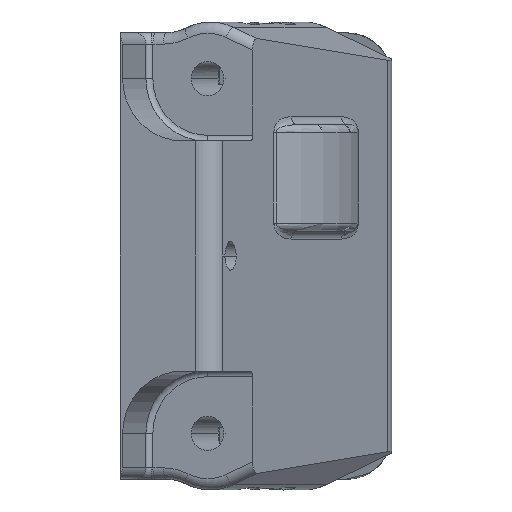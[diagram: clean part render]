
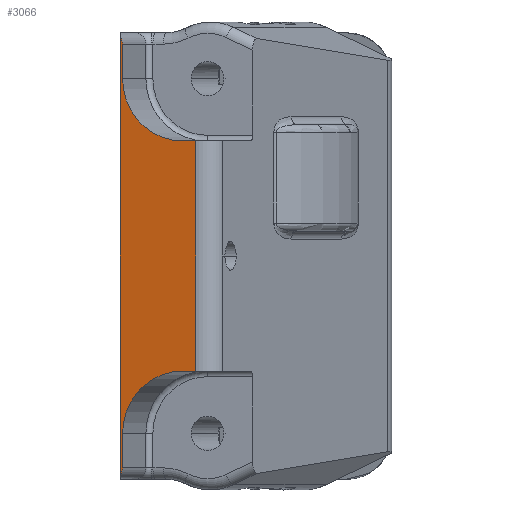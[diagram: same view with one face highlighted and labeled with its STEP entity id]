
A CAD part, left-side view. The second image highlights one B-rep face of the part: STEP entity #3066.
In plain terms, the highlighted planar face has unit normal (-0.966, 0.259, 0).
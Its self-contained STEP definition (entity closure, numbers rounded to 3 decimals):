
#64 = VERTEX_POINT ( 'NONE', #4990 ) ;
#88 = CARTESIAN_POINT ( 'NONE',  ( -26.201, -0.226, 18.7 ) ) ;
#199 = EDGE_LOOP ( 'NONE', ( #6030, #9145, #4291, #7482, #7599, #6589, #609, #6288, #924, #1440 ) ) ;
#238 = CARTESIAN_POINT ( 'NONE',  ( -27.625, -5.539, -10.15 ) ) ;
#278 = LINE ( 'NONE', #1884, #8364 ) ;
#331 = DIRECTION ( 'NONE',  ( 0.966, -0.259, 0. ) ) ;
#449 = EDGE_CURVE ( 'NONE', #5152, #2098, #6606, .T. ) ;
#606 = CARTESIAN_POINT ( 'NONE',  ( -26.201, -0.226, -15.65 ) ) ;
#609 = ORIENTED_EDGE ( 'NONE', *, *, #1657, .T. ) ;
#720 = DIRECTION ( 'NONE',  ( 0., 0., 1. ) ) ;
#758 = DIRECTION ( 'NONE',  ( -0.966, 0.259, 0. ) ) ;
#864 = FACE_OUTER_BOUND ( 'NONE', #199, .T. ) ;
#882 = CIRCLE ( 'NONE', #1748, 1. ) ;
#924 = ORIENTED_EDGE ( 'NONE', *, *, #7845, .T. ) ;
#1090 = VERTEX_POINT ( 'NONE', #2888 ) ;
#1203 = CARTESIAN_POINT ( 'NONE',  ( -26.201, -0.226, 15.65 ) ) ;
#1310 = EDGE_CURVE ( 'NONE', #1090, #1899, #2204, .T. ) ;
#1401 = VERTEX_POINT ( 'NONE', #238 ) ;
#1416 = VECTOR ( 'NONE', #10381, 1000. ) ;
#1440 = ORIENTED_EDGE ( 'NONE', *, *, #3143, .T. ) ;
#1570 = CIRCLE ( 'NONE', #9732, 1. ) ;
#1657 = EDGE_CURVE ( 'NONE', #1401, #5807, #278, .T. ) ;
#1748 = AXIS2_PLACEMENT_3D ( 'NONE', #8794, #758, #5595 ) ;
#1818 = AXIS2_PLACEMENT_3D ( 'NONE', #3082, #3858, #9516 ) ;
#1884 = CARTESIAN_POINT ( 'NONE',  ( -27.625, -5.539, -10.15 ) ) ;
#1899 = VERTEX_POINT ( 'NONE', #6295 ) ;
#1945 = CARTESIAN_POINT ( 'NONE',  ( -27.625, -5.539, 10.15 ) ) ;
#2029 = EDGE_CURVE ( 'NONE', #1090, #2731, #882, .T. ) ;
#2098 = VERTEX_POINT ( 'NONE', #88 ) ;
#2204 = LINE ( 'NONE', #2488, #1416 ) ;
#2488 = CARTESIAN_POINT ( 'NONE',  ( -26.141, 0., -15.65 ) ) ;
#2731 = VERTEX_POINT ( 'NONE', #6410 ) ;
#2787 = VECTOR ( 'NONE', #9797, 1000. ) ;
#2888 = CARTESIAN_POINT ( 'NONE',  ( -26.141, 0., -19.343 ) ) ;
#3066 = ADVANCED_FACE ( 'NONE', ( #864 ), #3281, .T. ) ;
#3082 = CARTESIAN_POINT ( 'NONE',  ( -27.625, -5.539, 15.65 ) ) ;
#3143 = EDGE_CURVE ( 'NONE', #7369, #5152, #6702, .T. ) ;
#3230 = EDGE_CURVE ( 'NONE', #2731, #5810, #8333, .T. ) ;
#3281 = PLANE ( 'NONE',  #5863 ) ;
#3858 = DIRECTION ( 'NONE',  ( 0.966, -0.259, 0. ) ) ;
#4020 = EDGE_CURVE ( 'NONE', #5807, #64, #5218, .T. ) ;
#4113 = CARTESIAN_POINT ( 'NONE',  ( -27.934, -6.693, 10.15 ) ) ;
#4291 = ORIENTED_EDGE ( 'NONE', *, *, #1310, .F. ) ;
#4300 = DIRECTION ( 'NONE',  ( -0.259, -0.966, 0. ) ) ;
#4431 = DIRECTION ( 'NONE',  ( 0.259, 0.966, 0. ) ) ;
#4502 = VECTOR ( 'NONE', #10173, 1000. ) ;
#4567 = CARTESIAN_POINT ( 'NONE',  ( -26.201, -0.226, 15.65 ) ) ;
#4904 = DIRECTION ( 'NONE',  ( -0.966, 0.259, 0. ) ) ;
#4977 = DIRECTION ( 'NONE',  ( -0.966, 0.259, 0. ) ) ;
#4990 = CARTESIAN_POINT ( 'NONE',  ( -27.934, -6.693, 10.15 ) ) ;
#5152 = VERTEX_POINT ( 'NONE', #1203 ) ;
#5215 = CARTESIAN_POINT ( 'NONE',  ( -27.625, -5.539, -15.65 ) ) ;
#5218 = LINE ( 'NONE', #4113, #2787 ) ;
#5491 = AXIS2_PLACEMENT_3D ( 'NONE', #5215, #331, #9964 ) ;
#5595 = DIRECTION ( 'NONE',  ( -0.259, -0.966, 0. ) ) ;
#5790 = DIRECTION ( 'NONE',  ( -0.259, -0.966, 0. ) ) ;
#5807 = VERTEX_POINT ( 'NONE', #10357 ) ;
#5810 = VERTEX_POINT ( 'NONE', #606 ) ;
#5863 = AXIS2_PLACEMENT_3D ( 'NONE', #9725, #4904, #5790 ) ;
#6030 = ORIENTED_EDGE ( 'NONE', *, *, #449, .T. ) ;
#6230 = CARTESIAN_POINT ( 'NONE',  ( -27.625, -5.539, 10.15 ) ) ;
#6288 = ORIENTED_EDGE ( 'NONE', *, *, #4020, .T. ) ;
#6295 = CARTESIAN_POINT ( 'NONE',  ( -26.141, 0., 19.343 ) ) ;
#6379 = LINE ( 'NONE', #1945, #8243 ) ;
#6410 = CARTESIAN_POINT ( 'NONE',  ( -26.201, -0.226, -18.7 ) ) ;
#6589 = ORIENTED_EDGE ( 'NONE', *, *, #8772, .T. ) ;
#6606 = LINE ( 'NONE', #4567, #4502 ) ;
#6702 = CIRCLE ( 'NONE', #1818, 5.5 ) ;
#6944 = VECTOR ( 'NONE', #720, 1000. ) ;
#7030 = EDGE_CURVE ( 'NONE', #2098, #1899, #1570, .T. ) ;
#7369 = VERTEX_POINT ( 'NONE', #6230 ) ;
#7482 = ORIENTED_EDGE ( 'NONE', *, *, #2029, .T. ) ;
#7599 = ORIENTED_EDGE ( 'NONE', *, *, #3230, .T. ) ;
#7845 = EDGE_CURVE ( 'NONE', #64, #7369, #6379, .T. ) ;
#8243 = VECTOR ( 'NONE', #4431, 1000. ) ;
#8333 = LINE ( 'NONE', #9650, #6944 ) ;
#8364 = VECTOR ( 'NONE', #4300, 1000. ) ;
#8772 = EDGE_CURVE ( 'NONE', #5810, #1401, #9240, .T. ) ;
#8794 = CARTESIAN_POINT ( 'NONE',  ( -25.943, 0.74, -18.7 ) ) ;
#8942 = CARTESIAN_POINT ( 'NONE',  ( -25.943, 0.74, 18.7 ) ) ;
#9076 = DIRECTION ( 'NONE',  ( -0.259, -0.966, 0. ) ) ;
#9145 = ORIENTED_EDGE ( 'NONE', *, *, #7030, .T. ) ;
#9240 = CIRCLE ( 'NONE', #5491, 5.5 ) ;
#9516 = DIRECTION ( 'NONE',  ( 0.259, 0.966, 0. ) ) ;
#9650 = CARTESIAN_POINT ( 'NONE',  ( -26.201, -0.226, -15.65 ) ) ;
#9725 = CARTESIAN_POINT ( 'NONE',  ( -27.625, -5.539, -15.65 ) ) ;
#9732 = AXIS2_PLACEMENT_3D ( 'NONE', #8942, #4977, #9076 ) ;
#9797 = DIRECTION ( 'NONE',  ( 0., 0., 1. ) ) ;
#9964 = DIRECTION ( 'NONE',  ( -0.259, -0.966, 0. ) ) ;
#10173 = DIRECTION ( 'NONE',  ( 0., 0., 1. ) ) ;
#10357 = CARTESIAN_POINT ( 'NONE',  ( -27.934, -6.693, -10.15 ) ) ;
#10381 = DIRECTION ( 'NONE',  ( 0., 0., 1. ) ) ;
